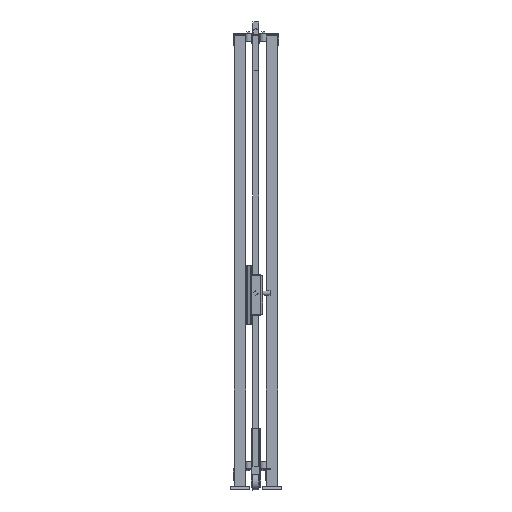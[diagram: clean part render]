
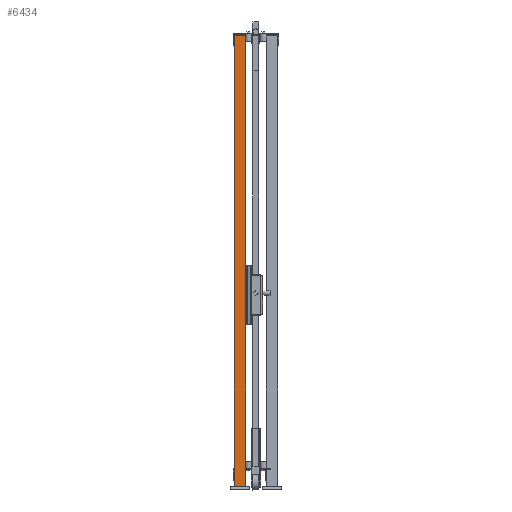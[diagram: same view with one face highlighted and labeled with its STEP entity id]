
A CAD part, left-side view. The second image highlights one B-rep face of the part: STEP entity #6434.
In plain terms, the highlighted planar face has unit normal (-1, 0, 0) as drawn and (0, 1, 0) by its records, which use the part's own axes.
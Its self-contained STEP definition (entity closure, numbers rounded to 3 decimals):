
#612=FACE_OUTER_BOUND('',#1132,.T.);
#1132=EDGE_LOOP('',(#4006,#4007,#4008,#4009));
#1718=VERTEX_POINT('',#14674);
#1719=VERTEX_POINT('',#14676);
#1721=VERTEX_POINT('',#14682);
#1724=VERTEX_POINT('',#14687);
#2584=EDGE_CURVE('',#1718,#1719,#7897,.T.);
#2590=EDGE_CURVE('',#1724,#1721,#7903,.T.);
#2593=EDGE_CURVE('',#1719,#1724,#7906,.T.);
#2594=EDGE_CURVE('',#1718,#1721,#7907,.T.);
#4006=ORIENTED_EDGE('',*,*,#2594,.T.);
#4007=ORIENTED_EDGE('',*,*,#2590,.F.);
#4008=ORIENTED_EDGE('',*,*,#2593,.F.);
#4009=ORIENTED_EDGE('',*,*,#2584,.F.);
#5984=PLANE('',#10081);
#6434=ADVANCED_FACE('',(#612),#5984,.F.);
#7897=LINE('',#14677,#9138);
#7903=LINE('',#14689,#9144);
#7906=LINE('',#14694,#9147);
#7907=LINE('',#14696,#9148);
#9138=VECTOR('',#11391,1.);
#9144=VECTOR('',#11399,1.);
#9147=VECTOR('',#11406,1.);
#9148=VECTOR('',#11409,1.);
#10081=AXIS2_PLACEMENT_3D('',#14695,#11407,#11408);
#11391=DIRECTION('',(-1.,0.,0.));
#11399=DIRECTION('',(1.,0.,0.));
#11406=DIRECTION('',(0.,0.,-1.));
#11407=DIRECTION('center_axis',(0.,-1.,0.));
#11408=DIRECTION('ref_axis',(0.,0.,-1.));
#11409=DIRECTION('',(0.,0.,-1.));
#14674=CARTESIAN_POINT('',(30.,30.,2320.));
#14676=CARTESIAN_POINT('',(-30.,30.,2320.));
#14677=CARTESIAN_POINT('',(0.,30.,2320.));
#14682=CARTESIAN_POINT('',(30.,30.,20.));
#14687=CARTESIAN_POINT('',(-30.,30.,20.));
#14689=CARTESIAN_POINT('',(0.,30.,20.));
#14694=CARTESIAN_POINT('',(-30.,30.,1170.));
#14695=CARTESIAN_POINT('Origin',(0.,30.,
1170.));
#14696=CARTESIAN_POINT('',(30.,30.,1170.));
